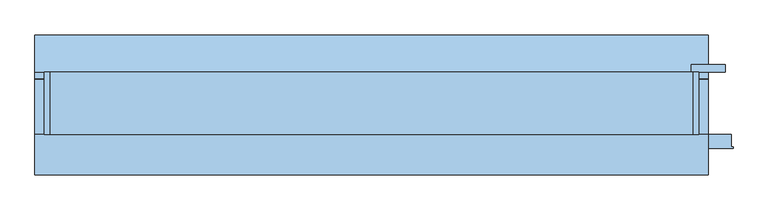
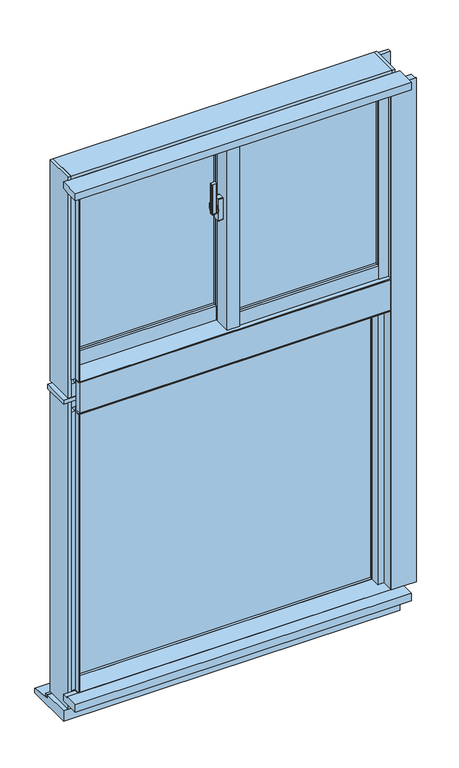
"""IFC4 building model written with IfcOpenShell, lengths in millimetres: window geometry, FNSⅡ100R_非防火_RC枠_段窓_分解無目 : たてすべりだし/FIX."""

from ifc_helpers import new_model, si_unit, point, frame, frame_2d, origin, place, context, project, spatial, polyline, circle_curve, trimmed, segment, composite_curve, outline, extrude, faceted_brep, source, transform, mapped, element, save
from ifc_brep_helpers import plane_surface, cylinder_surface, revolved_surface, advanced_brep


def window_f49ae977(model_context):
    return source(origin(), model_context, "Body", "SolidModel", [
        extrude(outline(composite_curve([segment(polyline([(-39.0, -20.4), (-39.0, -28.6)]), True, "CONTINUOUS"), segment(trimmed(circle_curve(frame_2d((-41.0, -28.6)), 2.0), [point((-39.0, -28.6))], [point((-41.3606557, -30.5672131))], False, "CARTESIAN"), True, "CONTINUOUS"), segment(polyline([(-41.3606557, -30.5672131), (-52.3606557, -28.5505464)]), True, "CONTINUOUS"), segment(trimmed(circle_curve(frame_2d((-52.0, -26.5833333)), 2.0), [point((-52.3606557, -28.5505464))], [point((-54.0, -26.5833333))], False, "CARTESIAN"), True, "CONTINUOUS"), segment(polyline([(-54.0, -26.5833333), (-54.0, -22.4166667)]), True, "CONTINUOUS"), segment(trimmed(circle_curve(frame_2d((-52.0, -22.4166667)), 2.0), [point((-54.0, -22.4166667))], [point((-52.3606557, -20.4494536))], False, "CARTESIAN"), True, "CONTINUOUS"), segment(polyline([(-52.3606557, -20.4494536), (-41.3606557, -18.4327869)]), True, "CONTINUOUS"), segment(trimmed(circle_curve(frame_2d((-41.0, -20.4)), 2.0), [point((-41.3606557, -18.4327869))], [point((-39.0, -20.4))], False, "CARTESIAN"), True, "CONTINUOUS")], self_intersect=False)), frame((0.0, 0.0, 2345.0), z_axis=(0.0, 0.0, 1.0), x_axis=(1.0, 0.0, 0.0)), (0.0, 0.0, 1.0), 100.0),
        advanced_brep(
        [(-37.5, -16.1765715, 2376.7333311), (-45.5, -16.1765715, 2376.7333311), (-45.5, -16.5648001, 2375.2844424), (-39.0, -16.5648001, 2375.2844424), (-39.0, -18.3765334, 2368.5229616), (-37.5, -18.3765334, 2368.5229616), (-39.0, -18.3533883, 2334.3190372), (-45.5, -18.3533883, 2334.3190372), (-45.5, -18.092916, 2332.8418256), (-37.5, -18.092916, 2332.8418256), (-37.5, -19.5689255, 2341.2126915), (-39.0, -19.5689255, 2341.2126915)],
        [
            (0, 1),
            (1, 2),
            (2, 3),
            (3, 4),
            (4, 5),
            (5, 0),
            (6, 7),
            (7, 8),
            (8, 9),
            (9, 10),
            (10, 11),
            (11, 6),
            (0, 9, circle_curve(frame((-37.5, -22.0, 2355.0), z_axis=(-1.0, 0.0, 0.0), x_axis=(0.0, 0.25881904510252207, 0.965925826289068)), 22.5)),
            (8, 1, circle_curve(frame((-45.5, -22.0, 2355.0), z_axis=(1.0, 0.0, 0.0), x_axis=(0.0, 0.25881904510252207, 0.965925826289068)), 22.5)),
            (7, 2, circle_curve(frame((-45.5, -22.0, 2355.0), z_axis=(1.0, 0.0, 0.0), x_axis=(0.0, 0.25881904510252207, 0.965925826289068)), 21.0)),
            (6, 3, circle_curve(frame((-39.0, -22.0, 2355.0), z_axis=(1.0, 0.0, 0.0), x_axis=(0.0, 0.25881904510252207, 0.965925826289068)), 21.0)),
            (11, 4, circle_curve(frame((-39.0, -22.0, 2355.0), z_axis=(-1.0, 0.0, 0.0), x_axis=(0.0, -1.0, 0.0)), 14.0)),
            (5, 10, circle_curve(frame((-37.5, -22.0, 2355.0), z_axis=(1.0, 0.0, 0.0), x_axis=(0.0, -1.0, 0.0)), 14.0)),
        ],
        [
            plane_surface(frame((-43.5470497, -22.0, 2355.0), z_axis=(0.0, -0.965925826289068, 0.25881904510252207), x_axis=(0.0, 0.25881904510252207, 0.965925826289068))),
            plane_surface(frame((-43.5470497, -22.0, 2355.0), z_axis=(0.0, -0.9848077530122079, -0.17364817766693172), x_axis=(0.0, 0.17364817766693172, -0.9848077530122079))),
            cylinder_surface(frame((-43.5470497, -22.0, 2355.0), z_axis=(-1.0, 0.0, 0.0), x_axis=(0.0, 0.25881904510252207, 0.965925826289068)), 22.5),
            plane_surface(frame((-45.5, -22.0, 2355.0), z_axis=(-1.0, 0.0, 0.0), x_axis=(0.0, 0.25881904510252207, 0.965925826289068))),
            revolved_surface(polyline([(-45.5, -16.564800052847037, 2375.2844423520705), (-39.0, -16.564800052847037, 2375.2844423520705)]), (-43.5470497, -22.0, 2355.0), (-1.0, 0.0, 0.0)),
            plane_surface(frame((-39.0, -22.0, 2355.0), z_axis=(-1.0, 0.0, 0.0), x_axis=(0.0, 0.25881904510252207, 0.965925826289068))),
            plane_surface(frame((-37.5, -22.0, 2355.0), z_axis=(1.0, 0.0, 0.0), x_axis=(0.0, 0.25881904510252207, 0.965925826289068))),
            cylinder_surface(frame((-37.5, -22.0, 2355.0), z_axis=(-1.0, 0.0, 0.0), x_axis=(0.0, -1.0, 0.0)), 14.0),
        ],
        [
            (0, [[1, 2, 3, 4, 5, 6]]),
            (1, [[7, 8, 9, 10, 11, 12]]),
            (2, [[-1, 13, -9, 14]]),
            (3, [[-2, -14, -8, 15]]),
            (4, [[-3, -15, -7, 16]]),
            (5, [[-16, -12, 17, -4]]),
            (6, [[-13, -6, 18, -10]]),
            (7, [[-17, -11, -18, -5]]),
        ],
    ),
        extrude(outline(composite_curve([segment(trimmed(circle_curve(frame_2d((-22.0, 2355.0)), 11.5), [point((-10.5, 2355.0))], [point((-33.5, 2355.0))], False, "CARTESIAN"), True, "CONTINUOUS"), segment(trimmed(circle_curve(frame_2d((-22.0, 2355.0)), 11.5), [point((-33.5, 2355.0))], [point((-10.5, 2355.0))], False, "CARTESIAN"), True, "CONTINUOUS")], self_intersect=False)), frame((-37.5, 0.0, 0.0), z_axis=(1.0, 0.0, 0.0), x_axis=(0.0, 1.0, 0.0)), (0.0, 0.0, 1.0), 2.5),
        extrude(outline(composite_curve([segment(polyline([(-31.0, 2392.5), (-13.0, 2392.5)]), True, "CONTINUOUS"), segment(trimmed(circle_curve(frame_2d((-13.0, 2390.5)), 2.0), [point((-13.0, 2392.5))], [point((-11.0, 2390.5))], False, "CARTESIAN"), True, "CONTINUOUS"), segment(polyline([(-11.0, 2390.5), (-11.0, 2319.5)]), True, "CONTINUOUS"), segment(trimmed(circle_curve(frame_2d((-13.0, 2319.5)), 2.0), [point((-11.0, 2319.5))], [point((-13.0, 2317.5))], False, "CARTESIAN"), True, "CONTINUOUS"), segment(polyline([(-13.0, 2317.5), (-31.0, 2317.5)]), True, "CONTINUOUS"), segment(trimmed(circle_curve(frame_2d((-31.0, 2319.5)), 2.0), [point((-31.0, 2317.5))], [point((-33.0, 2319.5))], False, "CARTESIAN"), True, "CONTINUOUS"), segment(polyline([(-33.0, 2319.5), (-33.0, 2390.5)]), True, "CONTINUOUS"), segment(trimmed(circle_curve(frame_2d((-31.0, 2390.5)), 2.0), [point((-33.0, 2390.5))], [point((-31.0, 2392.5))], False, "CARTESIAN"), True, "CONTINUOUS")], self_intersect=False)), frame((-35.0, 0.0, 0.0), z_axis=(1.0, 0.0, 0.0), x_axis=(0.0, 1.0, 0.0)), (0.0, 0.0, 1.0), 15.0),
        extrude(outline(polyline([(20.0, -31.0), (468.0, -31.0), (468.0, -37.0), (20.0, -37.0), (20.0, -31.0)])), frame((0.0, 0.0, 2003.0), z_axis=(0.0, 0.0, 1.0), x_axis=(1.0, 0.0, 0.0)), (0.0, 0.0, 1.0), 567.0),
        extrude(outline(polyline([(20.0, -13.0), (468.0, -13.0), (468.0, -19.0), (20.0, -19.0), (20.0, -13.0)])), frame((0.0, 0.0, 2003.0), z_axis=(0.0, 0.0, 1.0), x_axis=(1.0, 0.0, 0.0)), (0.0, 0.0, 1.0), 567.0),
        extrude(outline(polyline([(-468.0, 27.0), (-20.0, 27.0), (-20.0, 21.0), (-468.0, 21.0), (-468.0, 27.0)])), frame((0.0, 0.0, 2003.0), z_axis=(0.0, 0.0, 1.0), x_axis=(1.0, 0.0, 0.0)), (0.0, 0.0, 1.0), 567.0),
        extrude(outline(polyline([(-468.0, 45.0), (-20.0, 45.0), (-20.0, 39.0), (-468.0, 39.0), (-468.0, 45.0)])), frame((0.0, 0.0, 2003.0), z_axis=(0.0, 0.0, 1.0), x_axis=(1.0, 0.0, 0.0)), (0.0, 0.0, 1.0), 567.0),
        faceted_brep([(-489.5, 24.0, 2610.0), (-500.0, 24.0, 2610.0), (-500.0, 24.0, 1915.0), (-468.0, 24.0, 1915.0), (-468.0, 24.0, 1955.0), (-489.5, 24.0, 1955.0), (-489.5, 11.0, 2610.0), (-489.5, 11.0, 1955.0), (-468.0, 11.0, 2610.0), (-468.0, 11.0, 1955.0), (-500.0, 53.0, 2610.0), (-468.0, 53.0, 2610.0), (-468.0, 53.0, 1915.0), (-500.0, 53.0, 1915.0)], [[[0, 1, 2, 3, 4, 5]], [[6, 0, 5, 7]], [[8, 6, 7, 9]], [[10, 11, 12, 13]], [[2, 1, 10, 13]], [[5, 4, 9, 7]], [[1, 0, 6, 8, 11, 10]], [[3, 2, 13, 12]], [[11, 8, 9, 4, 3, 12]]]),
        faceted_brep([(-1.8, 10.5, 2610.0), (-20.0, 10.5, 2610.0), (-20.0, 10.5, 1955.0), (-1.8, 10.5, 1955.0), (-1.8, -1.9, 2610.0), (-1.8, -1.9, 1955.0), (20.0, -1.9, 2610.0), (20.0, -1.9, 1955.0), (-20.0, 53.0, 2610.0), (20.0, 53.0, 2610.0), (20.0, 53.0, 1915.0), (-20.0, 53.0, 1915.0), (-20.0, 24.0, 1955.0), (20.0, 24.0, 1955.0), (20.0, 24.0, 1915.0), (-20.0, 24.0, 1915.0)], [[[0, 1, 2, 3]], [[4, 0, 3, 5]], [[6, 4, 5, 7]], [[8, 9, 10, 11]], [[12, 13, 7, 5, 3, 2]], [[1, 0, 4, 6, 9, 8]], [[11, 10, 14, 15]], [[9, 6, 7, 13, 14, 10]], [[1, 8, 11, 15, 12, 2]], [[13, 12, 15, 14]]]),
        extrude(outline(polyline([(-20.0, -1.9), (-15.0, -1.9), (-15.0, -47.0), (15.0, -47.0), (15.0, -43.0), (20.0, -43.0), (20.0, -55.0), (-20.0, -55.0), (-20.0, -1.9)])), frame((0.0, 0.0, 1955.0), z_axis=(0.0, 0.0, 1.0), x_axis=(1.0, 0.0, 0.0)), (0.0, 0.0, 1.0), 655.0),
        extrude(outline(polyline([(-15.0, -1.9), (20.0, -1.9), (20.0, -43.0), (15.0, -43.0), (15.0, -47.0), (-15.0, -47.0), (-15.0, -1.9)])), frame((0.0, 0.0, 1955.0), z_axis=(0.0, 0.0, 1.0), x_axis=(1.0, 0.0, 0.0)), (0.0, 0.0, 1.0), 655.0),
        extrude(outline(polyline([(468.0, -55.0), (468.0, -47.0), (489.5, -47.0), (489.5, -34.0), (497.0, -34.0), (497.0, -55.0), (468.0, -55.0)])), frame((0.0, 0.0, 1958.0), z_axis=(0.0, 0.0, 1.0), x_axis=(1.0, 0.0, 0.0)), (0.0, 0.0, 1.0), 652.0),
        extrude(outline(polyline([(468.0, -5.0), (500.0, -5.0), (500.0, -34.0), (489.5, -34.0), (489.5, -47.0), (468.0, -47.0), (468.0, -5.0)])), frame((0.0, 0.0, 1955.0), z_axis=(0.0, 0.0, 1.0), x_axis=(1.0, 0.0, 0.0)), (0.0, 0.0, 1.0), 655.0),
        extrude(outline(polyline([(-1.85, 10.5), (-1.85, 3.0), (-20.0, 3.0), (-20.0, 10.5), (-1.85, 10.5)])), frame((0.0, 0.0, 1955.0), z_axis=(0.0, 0.0, 1.0), x_axis=(1.0, 0.0, 0.0)), (0.0, 0.0, 1.0), 655.0),
        extrude(outline(polyline([(-497.0, 24.0), (-489.5, 24.0), (-489.5, 11.0), (-468.0, 11.0), (-468.0, 3.0), (-497.0, 3.0), (-497.0, 24.0)])), frame((0.0, 0.0, 1955.0), z_axis=(0.0, 0.0, 1.0), x_axis=(1.0, 0.0, 0.0)), (0.0, 0.0, 1.0), 655.0),
        extrude(outline(polyline([(-53.0, 1958.0), (-53.0, 2003.0), (-45.0, 2003.0), (-45.0, 1980.5), (-34.0, 1980.5), (-34.0, 1958.0), (-53.0, 1958.0)])), frame((20.0, 0.0, 0.0), z_axis=(1.0, 0.0, 0.0), x_axis=(0.0, 1.0, 0.0)), (0.0, 0.0, 1.0), 448.0),
        extrude(outline(polyline([(-5.0, 1955.0), (-34.0, 1955.0), (-34.0, 1980.5), (-45.0, 1980.5), (-45.0, 2003.0), (-5.0, 2003.0), (-5.0, 1955.0)])), frame((20.0, 0.0, 0.0), z_axis=(1.0, 0.0, 0.0), x_axis=(0.0, 1.0, 0.0)), (0.0, 0.0, 1.0), 448.0),
        extrude(outline(polyline([(5.0, 2003.0), (13.0, 2003.0), (13.0, 1980.5), (24.0, 1980.5), (24.0, 1955.0), (5.0, 1955.0), (5.0, 2003.0)])), frame((-468.0, 0.0, 0.0), z_axis=(1.0, 0.0, 0.0), x_axis=(0.0, 1.0, 0.0)), (0.0, 0.0, 1.0), 448.0),
        extrude(outline(polyline([(53.0, 1915.0), (24.0, 1915.0), (24.0, 1980.5), (13.0, 1980.5), (13.0, 2003.0), (53.0, 2003.0), (53.0, 1915.0)])), frame((-468.0, 0.0, 0.0), z_axis=(1.0, 0.0, 0.0), x_axis=(0.0, 1.0, 0.0)), (0.0, 0.0, 1.0), 448.0),
        extrude(outline(polyline([(-32.0, 2590.5), (-45.0, 2590.5), (-45.0, 2570.0), (-53.0, 2570.0), (-53.0, 2610.0), (-32.0, 2610.0), (-32.0, 2590.5)])), frame((20.0, 0.0, 0.0), z_axis=(1.0, 0.0, 0.0), x_axis=(0.0, 1.0, 0.0)), (0.0, 0.0, 1.0), 448.0),
        extrude(outline(polyline([(-5.0, 2610.0), (-5.0, 2570.0), (-45.0, 2570.0), (-45.0, 2590.5), (-32.0, 2590.5), (-32.0, 2610.0), (-5.0, 2610.0)])), frame((20.0, 0.0, 0.0), z_axis=(1.0, 0.0, 0.0), x_axis=(0.0, 1.0, 0.0)), (0.0, 0.0, 1.0), 448.0),
        extrude(outline(polyline([(26.0, 2590.5), (13.0, 2590.5), (13.0, 2570.0), (5.0, 2570.0), (5.0, 2610.0), (26.0, 2610.0), (26.0, 2590.5)])), frame((-468.0, 0.0, 0.0), z_axis=(1.0, 0.0, 0.0), x_axis=(0.0, 1.0, 0.0)), (0.0, 0.0, 1.0), 448.0),
        extrude(outline(polyline([(53.0, 2610.0), (53.0, 2570.0), (13.0, 2570.0), (13.0, 2590.5), (26.0, 2590.5), (26.0, 2610.0), (53.0, 2610.0)])), frame((-468.0, 0.0, 0.0), z_axis=(1.0, 0.0, 0.0), x_axis=(0.0, 1.0, 0.0)), (0.0, 0.0, 1.0), 448.0),
        extrude(outline(polyline([(-15.0, 25.3), (-15.0, -23.1), (-500.0, -23.1), (-500.0, 25.3), (-15.0, 25.3)])), frame((0.0, 0.0, 2610.0), z_axis=(0.0, 0.0, 1.0), x_axis=(1.0, 0.0, 0.0)), (0.0, 0.0, 1.0), 25.0),
        faceted_brep([(515.0, -45.0, 2635.0), (515.0, -45.0, 2645.0), (-515.0, -45.0, 2645.0), (-515.0, -45.0, 2635.0), (-515.0, 55.0, 2610.0), (-515.0, 25.3, 2610.0), (-515.0, 25.3, 2635.0), (-515.0, 55.0, 2645.0), (515.0, 25.3, 2635.0), (-15.0, 25.3, 2635.0), (-15.0, -23.1, 2635.0), (500.0, -23.1, 2635.0), (500.0, 25.3, 2635.0), (-15.0, 25.3, 2610.0), (515.0, 25.3, 2610.0), (500.0, 25.3, 2610.0), (515.0, 55.0, 2610.0), (500.0, -23.1, 2610.0), (-15.0, -23.1, 2610.0), (515.0, 55.0, 2645.0)], [[[0, 1, 2, 3]], [[4, 5, 6, 3, 2, 7]], [[8, 0, 3, 6, 9, 10, 11, 12]], [[6, 5, 13, 9]], [[14, 8, 12, 15]], [[16, 14, 15, 17, 18, 13, 5, 4]], [[19, 16, 4, 7]], [[1, 19, 7, 2]], [[16, 19, 1, 0, 8, 14]], [[11, 17, 15, 12]], [[13, 18, 10, 9]], [[17, 11, 10, 18]]]),
        extrude(outline(polyline([(-23.1, 2610.0), (-65.0, 2610.0), (-65.0, 2613.0), (-45.0, 2613.0), (-45.0, 2635.0), (-23.1, 2635.0), (-23.1, 2610.0)])), frame((-500.0, 0.0, 0.0), z_axis=(1.0, 0.0, 0.0), x_axis=(0.0, 1.0, 0.0)), (0.0, 0.0, 1.0), 1000.0),
        faceted_brep([(500.0, -45.0, 2630.0), (515.0, -45.0, 2630.0), (515.0, -40.5, 2630.0), (500.0, -40.5, 2630.0), (500.0, -65.0, 1955.0), (503.0, -65.0, 1955.0), (503.0, -65.0, 2613.0), (500.0, -65.0, 2613.0), (515.0, -40.5, 1955.0), (500.0, -40.5, 1955.0), (500.0, -45.0, 2613.0), (503.0, -45.0, 2613.0), (515.0, -45.0, 1955.0), (503.0, -45.0, 1955.0)], [[[0, 1, 2, 3]], [[4, 5, 6, 7]], [[3, 2, 8, 9]], [[9, 4, 7, 10, 0, 3]], [[11, 10, 7, 6]], [[4, 9, 8, 12, 13, 5]], [[5, 13, 11, 6]], [[0, 10, 11, 13, 12, 1]], [[2, 1, 12, 8]]]),
        faceted_brep([(-515.0, -45.0, 1955.0), (-503.0, -45.0, 1955.0), (-503.0, -45.0, 2613.0), (-500.0, -45.0, 2613.0), (-500.0, -45.0, 2630.0), (-515.0, -45.0, 2630.0), (-503.0, -65.0, 2613.0), (-500.0, -65.0, 2613.0), (-515.0, 21.0, 2630.0), (-500.0, 21.0, 2630.0), (-500.0, 21.0, 1955.0), (-515.0, 21.0, 1955.0), (-500.0, -65.0, 1955.0), (-503.0, -65.0, 1955.0)], [[[0, 1, 2, 3, 4, 5]], [[3, 2, 6, 7]], [[8, 9, 10, 11]], [[5, 4, 9, 8]], [[0, 11, 10, 12, 13, 1]], [[1, 13, 6, 2]], [[13, 12, 7, 6]], [[12, 10, 9, 4, 3, 7]], [[0, 5, 8, 11]]]),
        faceted_brep([(515.0, -40.5, 2610.0), (500.0, -40.5, 2610.0), (500.0, -40.5, 1904.0), (515.0, -40.5, 1904.0), (515.0, 55.0, 2645.0), (525.0, 55.0, 2645.0), (525.0, 55.0, 1895.0), (515.0, 55.0, 1895.0), (515.0, 55.0, 1904.0), (500.0, 55.0, 1904.0), (500.0, 55.0, 2610.0), (515.0, 55.0, 2610.0), (515.0, -45.0, 2645.0), (515.0, -45.0, 1895.0), (525.0, -45.0, 2645.0), (525.0, -45.0, 1895.0)], [[[0, 1, 2, 3]], [[4, 5, 6, 7, 8, 9, 10, 11]], [[12, 4, 11, 0, 3, 8, 7, 13]], [[12, 14, 5, 4]], [[13, 7, 6, 15]], [[2, 9, 8, 3]], [[1, 10, 9, 2]], [[1, 0, 11, 10]], [[14, 12, 13, 15]], [[5, 14, 15, 6]]]),
        faceted_brep([(-500.0, 21.0, 2610.0), (-515.0, 21.0, 2610.0), (-515.0, 21.0, 1904.0), (-500.0, 21.0, 1904.0), (-525.0, 55.0, 2645.0), (-525.0, -45.0, 2645.0), (-515.0, -45.0, 2645.0), (-515.0, 55.0, 2645.0), (-525.0, 55.0, 1895.0), (-515.0, 55.0, 1895.0), (-515.0, -45.0, 1895.0), (-525.0, -45.0, 1895.0), (-500.0, 55.0, 1904.0), (-515.0, 55.0, 1904.0), (-515.0, 55.0, 2610.0), (-500.0, 55.0, 2610.0)], [[[0, 1, 2, 3]], [[4, 5, 6, 7]], [[8, 9, 10, 11]], [[6, 5, 11, 10]], [[12, 3, 2, 13]], [[5, 4, 8, 11]], [[7, 6, 10, 9, 13, 2, 1, 14]], [[4, 7, 14, 15, 12, 13, 9, 8]], [[15, 14, 1, 0]], [[15, 0, 3, 12]]]),
        faceted_brep([(515.0, 21.0, 1939.0), (515.0, 21.0, 1904.0), (-515.0, 21.0, 1904.0), (-515.0, 21.0, 1939.0), (515.0, 55.0, 1904.0), (-515.0, 55.0, 1904.0), (515.0, 55.0, 1895.0), (515.0, -45.0, 1895.0), (-515.0, -45.0, 1895.0), (-515.0, 55.0, 1895.0), (515.0, -45.0, 1939.0), (-515.0, -45.0, 1939.0), (500.0, -17.75, 1939.0), (500.0, -36.2, 1939.0), (-15.0, -36.2, 1939.0), (-15.0, -17.75, 1939.0), (500.0, -36.2, 1955.0), (500.0, -17.75, 1955.0), (-15.0, -36.2, 1955.0), (-15.0, -17.75, 1955.0)], [[[0, 1, 2, 3]], [[1, 4, 5, 2]], [[6, 7, 8, 9]], [[10, 0, 3, 11], [12, 13, 14, 15]], [[6, 4, 1, 0, 10, 7]], [[9, 8, 11, 3, 2, 5]], [[7, 10, 11, 8]], [[4, 6, 9, 5]], [[16, 13, 12, 17]], [[18, 19, 15, 14]], [[13, 16, 18, 14]], [[17, 12, 15, 19]], [[16, 17, 19, 18]]]),
        faceted_brep([(503.0, -65.0, 1955.0), (503.0, -65.0, 1952.0), (503.0, -45.0, 1952.0), (503.0, -45.0, 1939.0), (503.0, -40.5, 1939.0), (503.0, -40.5, 1955.0), (-503.0, -45.0, 1939.0), (-503.0, -45.0, 1952.0), (-503.0, -65.0, 1952.0), (-503.0, -65.0, 1955.0), (-503.0, -36.2, 1955.0), (-503.0, -36.2, 1939.0), (500.0, -40.5, 1955.0), (500.0, -36.2, 1955.0), (-15.0, -36.2, 1955.0), (-15.0, 21.0, 1955.0), (-500.0, 21.0, 1955.0), (-500.0, -36.2, 1955.0), (-500.0, -36.2, 1939.0), (-500.0, 21.0, 1939.0), (-15.0, 21.0, 1939.0), (-15.0, -36.2, 1939.0), (500.0, -36.2, 1939.0), (500.0, -40.5, 1939.0)], [[[0, 1, 2, 3, 4, 5]], [[6, 7, 8, 9, 10, 11]], [[3, 2, 7, 6]], [[2, 1, 8, 7]], [[1, 0, 9, 8]], [[10, 9, 0, 5, 12, 13, 14, 15, 16, 17]], [[6, 11, 18, 19, 20, 21, 22, 23, 4, 3]], [[13, 22, 21, 14]], [[11, 10, 17, 18]], [[12, 23, 22, 13]], [[23, 12, 5, 4]], [[15, 14, 21, 20]], [[16, 19, 18, 17]], [[15, 20, 19, 16]]]),
        extrude(outline(polyline([(-480.0, 20.6), (480.0, 20.6), (480.0, 14.6), (-480.0, 14.6), (-480.0, 20.6)])), frame((0.0, 0.0, 900.0), z_axis=(0.0, 0.0, 1.0), x_axis=(1.0, 0.0, 0.0)), (0.0, 0.0, 1.0), 925.0),
        extrude(outline(polyline([(-480.0, 38.6), (480.0, 38.6), (480.0, 32.6), (-480.0, 32.6), (-480.0, 38.6)])), frame((0.0, 0.0, 900.0), z_axis=(0.0, 0.0, 1.0), x_axis=(1.0, 0.0, 0.0)), (0.0, 0.0, 1.0), 925.0),
        faceted_brep([(-525.0, 55.0, 1880.0), (-525.0, -45.0, 1880.0), (-515.0, -45.0, 1880.0), (-515.0, 55.0, 1880.0), (-525.0, 55.0, 840.0), (-515.0, 55.0, 840.0), (-515.0, -45.0, 840.0), (-525.0, -45.0, 840.0), (-515.0, 55.0, 900.0), (-515.0, 5.0, 900.0), (-515.0, 5.0, 1825.0), (-515.0, 55.0, 1825.0), (-480.0, 55.0, 1825.0), (-480.0, 55.0, 900.0), (-480.0, 5.0, 1825.0), (-480.0, 5.0, 900.0)], [[[0, 1, 2, 3]], [[4, 5, 6, 7]], [[1, 0, 4, 7]], [[2, 1, 7, 6]], [[3, 2, 6, 5, 8, 9, 10, 11]], [[0, 3, 11, 12, 13, 8, 5, 4]], [[12, 11, 10, 14]], [[13, 15, 9, 8]], [[14, 10, 9, 15]], [[12, 14, 15, 13]]]),
        faceted_brep([(525.0, 55.0, 1880.0), (515.0, 55.0, 1880.0), (515.0, -45.0, 1880.0), (525.0, -45.0, 1880.0), (525.0, 55.0, 840.0), (525.0, -45.0, 840.0), (515.0, -45.0, 840.0), (515.0, 55.0, 840.0), (515.0, 55.0, 900.0), (480.0, 55.0, 900.0), (480.0, 55.0, 1825.0), (515.0, 55.0, 1825.0), (515.0, 5.0, 1825.0), (515.0, 5.0, 900.0), (480.0, 5.0, 1825.0), (480.0, 5.0, 900.0)], [[[0, 1, 2, 3]], [[4, 5, 6, 7]], [[1, 0, 4, 7, 8, 9, 10, 11]], [[2, 1, 11, 12, 13, 8, 7, 6]], [[3, 2, 6, 5]], [[0, 3, 5, 4]], [[11, 10, 14, 12]], [[13, 15, 9, 8]], [[14, 10, 9, 15]], [[12, 14, 15, 13]]]),
        extrude(outline(polyline([(500.0, -65.0), (500.0, -26.5), (480.0, -26.5), (480.0, 5.0), (515.0, 5.0), (515.0, -45.0), (503.0, -45.0), (503.0, -65.0), (500.0, -65.0)])), frame((0.0, 0.0, 900.0), z_axis=(0.0, 0.0, 1.0), x_axis=(1.0, 0.0, 0.0)), (0.0, 0.0, 1.0), 945.0),
        extrude(outline(polyline([(-515.0, -45.0), (-515.0, 5.0), (-480.0, 5.0), (-480.0, -26.5), (-500.0, -26.5), (-500.0, -65.0), (-503.0, -65.0), (-503.0, -45.0), (-515.0, -45.0)])), frame((0.0, 0.0, 900.0), z_axis=(0.0, 0.0, 1.0), x_axis=(1.0, 0.0, 0.0)), (0.0, 0.0, 1.0), 945.0),
        extrude(outline(polyline([(-45.0, 884.0), (-45.0, 897.0), (-65.0, 897.0), (-65.0, 900.0), (5.0, 900.0), (5.0, 884.0), (-45.0, 884.0)])), frame((-503.0, 0.0, 0.0), z_axis=(1.0, 0.0, 0.0), x_axis=(0.0, 1.0, 0.0)), (0.0, 0.0, 1.0), 1006.0),
        extrude(outline(polyline([(55.0, 840.0), (-45.0, 840.0), (-45.0, 884.0), (5.0, 884.0), (5.0, 900.0), (55.0, 900.0), (55.0, 870.0), (36.0, 870.0), (36.0, 850.0), (55.0, 850.0), (55.0, 840.0)])), frame((-515.0, 0.0, 0.0), z_axis=(1.0, 0.0, 0.0), x_axis=(0.0, 1.0, 0.0)), (0.0, 0.0, 1.0), 1030.0),
        extrude(outline(polyline([(5.0, 1822.0), (-29.0, 1822.0), (-29.0, 1845.0), (-65.0, 1845.0), (-65.0, 1848.0), (-45.0, 1848.0), (-45.0, 1860.0), (5.0, 1860.0), (5.0, 1822.0)])), frame((-503.0, 0.0, 0.0), z_axis=(1.0, 0.0, 0.0), x_axis=(0.0, 1.0, 0.0)), (0.0, 0.0, 1.0), 1006.0),
        extrude(outline(polyline([(55.0, 1825.0), (5.0, 1825.0), (5.0, 1860.0), (-45.0, 1860.0), (-45.0, 1880.0), (55.0, 1880.0), (55.0, 1825.0)])), frame((-515.0, 0.0, 0.0), z_axis=(1.0, 0.0, 0.0), x_axis=(0.0, 1.0, 0.0)), (0.0, 0.0, 1.0), 1030.0),
        extrude(outline(polyline([(-110.0, 900.0), (-65.0, 900.0), (-65.0, 897.0), (-45.0, 897.0), (-45.0, 875.0), (-110.0, 875.0), (-110.0, 900.0)])), frame((-540.0, 0.0, 0.0), z_axis=(1.0, 0.0, 0.0), x_axis=(0.0, 1.0, 0.0)), (0.0, 0.0, 1.0), 1080.0),
        extrude(outline(polyline([(45.0, 840.0), (55.0, 840.0), (55.0, 828.4285714), (45.0, 830.0), (45.0, 840.0)])), frame((-540.0, 0.0, 0.0), z_axis=(1.0, 0.0, 0.0), x_axis=(0.0, 1.0, 0.0)), (0.0, 0.0, 1.0), 1080.0),
        extrude(outline(polyline([(-45.0, 804.0), (-45.0, 840.0), (45.0, 840.0), (45.0, 830.0), (115.0, 819.0), (115.0, 804.0), (-45.0, 804.0)])), frame((-540.0, 0.0, 0.0), z_axis=(1.0, 0.0, 0.0), x_axis=(0.0, 1.0, 0.0)), (0.0, 0.0, 1.0), 1080.0),
        extrude(outline(polyline([(503.0, -65.0), (503.0, -45.0), (577.0, -45.0), (577.0, -65.0), (580.0, -65.0), (580.0, -67.5), (500.0, -67.5), (500.0, -65.0), (503.0, -65.0)])), frame((0.0, 0.0, 900.0), z_axis=(0.0, 0.0, 1.0), x_axis=(1.0, 0.0, 0.0)), (0.0, 0.0, 1.0), 1710.0),
        extrude(outline(polyline([(567.5, 55.0), (512.5, 55.0), (512.5, 67.0), (567.5, 67.0), (567.5, 55.0)])), frame((0.0, 0.0, 840.0), z_axis=(0.0, 0.0, 1.0), x_axis=(1.0, 0.0, 0.0)), (0.0, 0.0, 1.0), 1790.0),
        extrude(outline(polyline([(-110.0, 2635.0), (-45.0, 2635.0), (-45.0, 2613.0), (-65.0, 2613.0), (-65.0, 2610.0), (-110.0, 2610.0), (-110.0, 2635.0)])), frame((-540.0, 0.0, 0.0), z_axis=(1.0, 0.0, 0.0), x_axis=(0.0, 1.0, 0.0)), (0.0, 0.0, 1.0), 1080.0),
        extrude(outline(polyline([(-500.0, -65.0), (-500.0, -45.0), (500.0, -45.0), (500.0, -65.0), (-500.0, -65.0)])), frame((0.0, 0.0, 1848.0), z_axis=(0.0, 0.0, 1.0), x_axis=(1.0, 0.0, 0.0)), (0.0, 0.0, 1.0), 104.0),
        extrude(outline(polyline([(-540.0, -45.0), (-540.0, 43.0), (540.0, 43.0), (540.0, -45.0), (-540.0, -45.0)])), frame((0.0, 0.0, 1880.0), z_axis=(0.0, 0.0, 1.0), x_axis=(1.0, 0.0, 0.0)), (0.0, 0.0, 1.0), 15.0),
    ])


if __name__ == "__main__":
    model = new_model("IFC4")
    model_context = context("Model", 3, world=origin())
    ifc_project = project(units=[si_unit("LENGTHUNIT", "METRE", prefix="MILLI")], contexts=[model_context])
    site = spatial("IfcSite", under=ifc_project)
    building = spatial("IfcBuilding", under=site)
    placement = place(None, origin())
    window_shape = window_f49ae977(model_context)
    element("IfcWindow", 1, ObjectType="FNSⅡ100R_非防火_RC枠_段窓_分解無目 : たてすべりだし/FIX", at=placement, inside=building, context=model_context, shape_type="MappedRepresentation", body=[
        mapped(window_shape, transform((0.0, 0.0, 0.0), x_axis=(1.0, 0.0, 0.0), y_axis=(0.0, 1.0, 0.0), z_axis=(0.0, 0.0, 1.0))),
    ])
    save(model, "model.ifc")
